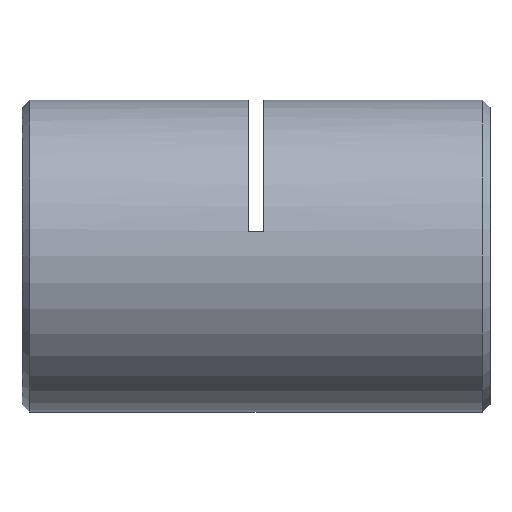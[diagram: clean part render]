
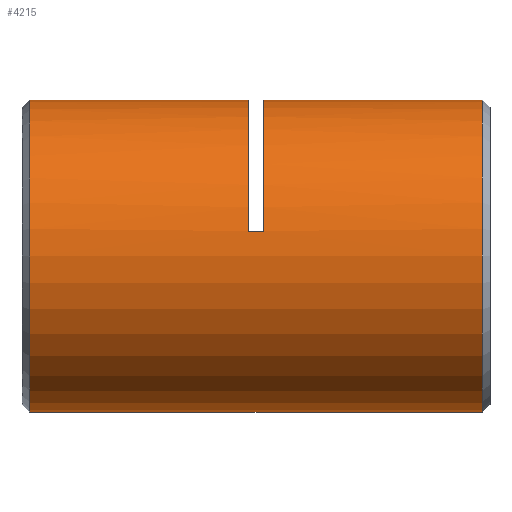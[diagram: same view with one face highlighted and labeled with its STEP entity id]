
A CAD part, left-side view. The second image highlights one B-rep face of the part: STEP entity #4215.
In plain terms, the highlighted cylindrical face has radius 8 mm (diameter 16 mm), a partial arc.
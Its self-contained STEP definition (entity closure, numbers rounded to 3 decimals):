
#232 = ORIENTED_EDGE ( 'NONE', *, *, #3615, .T. ) ;
#362 = CARTESIAN_POINT ( 'NONE',  ( 0., 23.85, 8. ) ) ;
#382 = AXIS2_PLACEMENT_3D ( 'NONE', #558, #2193, #6218 ) ;
#396 = ORIENTED_EDGE ( 'NONE', *, *, #1613, .T. ) ;
#488 = AXIS2_PLACEMENT_3D ( 'NONE', #4222, #1153, #1654 ) ;
#524 = DIRECTION ( 'NONE',  ( 0., 1., 0. ) ) ;
#558 = CARTESIAN_POINT ( 'NONE',  ( 0., 11.85, 0. ) ) ;
#597 = EDGE_LOOP ( 'NONE', ( #6619, #3549, #396, #6414, #4347, #232, #4917, #5672 ) ) ;
#601 = CARTESIAN_POINT ( 'NONE',  ( 0., 0.65, -8. ) ) ;
#711 = VERTEX_POINT ( 'NONE', #601 ) ;
#1007 = VERTEX_POINT ( 'NONE', #362 ) ;
#1025 = CARTESIAN_POINT ( 'NONE',  ( 0., 12.65, 0. ) ) ;
#1153 = DIRECTION ( 'NONE',  ( 0., 1., 0. ) ) ;
#1197 = CARTESIAN_POINT ( 'NONE',  ( 0., 0.25, 8. ) ) ;
#1208 = CIRCLE ( 'NONE', #382, 8. ) ;
#1391 = DIRECTION ( 'NONE',  ( 0., 1., 0. ) ) ;
#1613 = EDGE_CURVE ( 'NONE', #5654, #2610, #3488, .T. ) ;
#1639 = VECTOR ( 'NONE', #4983, 1000. ) ;
#1654 = DIRECTION ( 'NONE',  ( 0., 0., 1. ) ) ;
#1678 = VECTOR ( 'NONE', #2232, 1000. ) ;
#1738 = CARTESIAN_POINT ( 'NONE',  ( 0., 0.25, 8. ) ) ;
#1803 = CYLINDRICAL_SURFACE ( 'NONE', #488, 8. ) ;
#1931 = CIRCLE ( 'NONE', #4622, 8. ) ;
#2185 = FACE_OUTER_BOUND ( 'NONE', #597, .T. ) ;
#2193 = DIRECTION ( 'NONE',  ( 0., 1., 0. ) ) ;
#2232 = DIRECTION ( 'NONE',  ( 0., 1., 0. ) ) ;
#2268 = EDGE_CURVE ( 'NONE', #1007, #3194, #2366, .T. ) ;
#2345 = DIRECTION ( 'NONE',  ( 0., 0., 1. ) ) ;
#2366 = CIRCLE ( 'NONE', #5166, 8. ) ;
#2512 = DIRECTION ( 'NONE',  ( 0., 0., 1. ) ) ;
#2610 = VERTEX_POINT ( 'NONE', #3460 ) ;
#2783 = EDGE_CURVE ( 'NONE', #5494, #1007, #3163, .T. ) ;
#2873 = CARTESIAN_POINT ( 'NONE',  ( 0., 0.65, 8. ) ) ;
#2909 = CARTESIAN_POINT ( 'NONE',  ( -7.897, 12.25, 1.28 ) ) ;
#2976 = LINE ( 'NONE', #2909, #1639 ) ;
#3007 = VERTEX_POINT ( 'NONE', #3435 ) ;
#3163 = LINE ( 'NONE', #1197, #6223 ) ;
#3194 = VERTEX_POINT ( 'NONE', #5154 ) ;
#3237 = DIRECTION ( 'NONE',  ( 0., 1., 0. ) ) ;
#3337 = CARTESIAN_POINT ( 'NONE',  ( 0., 12.65, 8. ) ) ;
#3374 = DIRECTION ( 'NONE',  ( 0., 1., 0. ) ) ;
#3435 = CARTESIAN_POINT ( 'NONE',  ( -7.897, 12.65, 1.28 ) ) ;
#3460 = CARTESIAN_POINT ( 'NONE',  ( 0., 11.85, 8. ) ) ;
#3488 = LINE ( 'NONE', #1738, #1678 ) ;
#3540 = CIRCLE ( 'NONE', #5809, 8. ) ;
#3542 = EDGE_CURVE ( 'NONE', #711, #3194, #5485, .T. ) ;
#3549 = ORIENTED_EDGE ( 'NONE', *, *, #6058, .T. ) ;
#3615 = EDGE_CURVE ( 'NONE', #3007, #5494, #3540, .T. ) ;
#3884 = DIRECTION ( 'NONE',  ( 0., -1., 0. ) ) ;
#4215 = ADVANCED_FACE ( 'NONE', ( #2185 ), #1803, .T. ) ;
#4222 = CARTESIAN_POINT ( 'NONE',  ( 0., 0.25, 0. ) ) ;
#4347 = ORIENTED_EDGE ( 'NONE', *, *, #4498, .T. ) ;
#4390 = VERTEX_POINT ( 'NONE', #5849 ) ;
#4451 = CARTESIAN_POINT ( 'NONE',  ( 0., 0.25, -8. ) ) ;
#4468 = CARTESIAN_POINT ( 'NONE',  ( 0., 23.85, 0. ) ) ;
#4498 = EDGE_CURVE ( 'NONE', #4390, #3007, #2976, .T. ) ;
#4622 = AXIS2_PLACEMENT_3D ( 'NONE', #5921, #3374, #2345 ) ;
#4917 = ORIENTED_EDGE ( 'NONE', *, *, #2783, .T. ) ;
#4983 = DIRECTION ( 'NONE',  ( 0., 1., 0. ) ) ;
#5154 = CARTESIAN_POINT ( 'NONE',  ( 0., 23.85, -8. ) ) ;
#5166 = AXIS2_PLACEMENT_3D ( 'NONE', #4468, #3884, #5971 ) ;
#5485 = LINE ( 'NONE', #4451, #5797 ) ;
#5494 = VERTEX_POINT ( 'NONE', #3337 ) ;
#5654 = VERTEX_POINT ( 'NONE', #2873 ) ;
#5672 = ORIENTED_EDGE ( 'NONE', *, *, #2268, .T. ) ;
#5797 = VECTOR ( 'NONE', #1391, 1000. ) ;
#5809 = AXIS2_PLACEMENT_3D ( 'NONE', #1025, #524, #2512 ) ;
#5849 = CARTESIAN_POINT ( 'NONE',  ( -7.897, 11.85, 1.28 ) ) ;
#5921 = CARTESIAN_POINT ( 'NONE',  ( 0., 0.65, 0. ) ) ;
#5971 = DIRECTION ( 'NONE',  ( 0., 0., -1. ) ) ;
#6058 = EDGE_CURVE ( 'NONE', #711, #5654, #1931, .T. ) ;
#6218 = DIRECTION ( 'NONE',  ( 0., 0., 1. ) ) ;
#6223 = VECTOR ( 'NONE', #3237, 1000. ) ;
#6370 = EDGE_CURVE ( 'NONE', #4390, #2610, #1208, .T. ) ;
#6414 = ORIENTED_EDGE ( 'NONE', *, *, #6370, .F. ) ;
#6619 = ORIENTED_EDGE ( 'NONE', *, *, #3542, .F. ) ;
